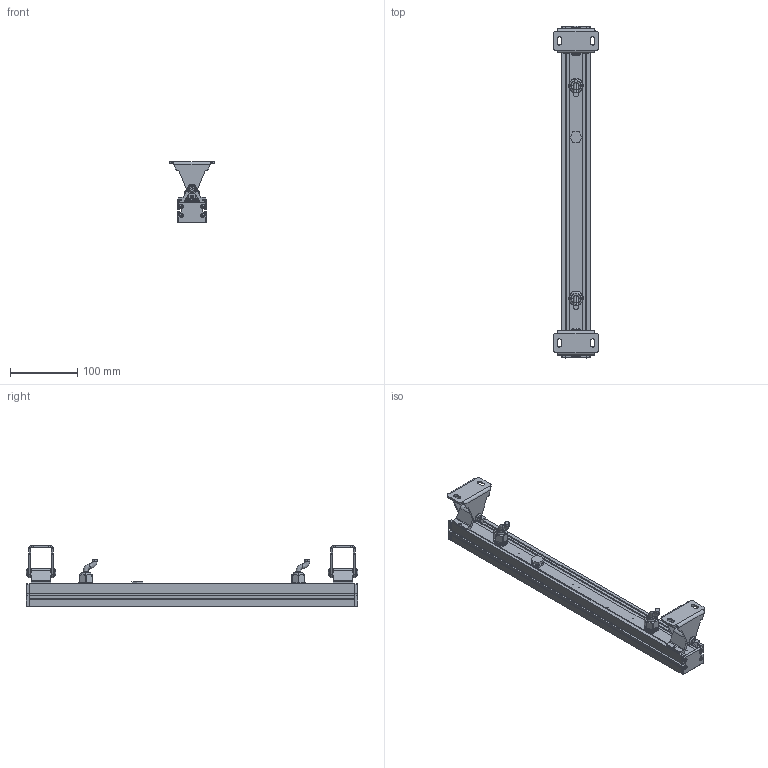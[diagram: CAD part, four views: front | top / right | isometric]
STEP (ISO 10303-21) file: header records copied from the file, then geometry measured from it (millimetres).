
FILE_DESCRIPTION((''),'2;1');
FILE_NAME('B6KD1257_ASM','2023-02-04T',('Administrator'),(''),'CREO PARAMETRIC BY PTC INC, 2015200','CREO PARAMETRIC BY PTC INC, 2015200','');
FILE_SCHEMA(('CONFIG_CONTROL_DESIGN'));
Length unit declared in the file: millimetre
Products named in the file (23): 6KE; BLI-12_20_1_1; PG9_U___M; ___J3; ___J1; ___J2; PG9___1_ASM; PG_______Y___ASM; 6K-_3D_2017_1_6_; 6K_56_1; 6K_LJB_24PCS_5; 6R_TJZJ_5; 6K_LJB_ZJ_ASM_6_ASM; M3-22; PRODUCT_88784_ANY_1_1; M3X6-YT_2; 002_53; XIAZHIJIA-6K-GAOY004_13; M9; M3; SOCKET_HEAD_CAP_SCREW_ISO_ISO_4; XINZHIJIA-6K-GAOYA004_ASM_12_ASM; B6KD1257_ASM
Assembly tree (42 placements, depth 4):
  B6KD1257_ASM
    6KE
    BLI-12_20_1_1
    PG_______Y___ASM  x2
      PG9_U___M
      PG9___1_ASM
        ___J3
        ___J1
        ___J2
    6K-_3D_2017_1_6_  x2
    6K_56_1  x2
    6K_LJB_ZJ_ASM_6_ASM  x2
      6K_LJB_24PCS_5
      6R_TJZJ_5
    M3-22  x6
    PRODUCT_88784_ANY_1_1
    M3X6-YT_2  x8
    XINZHIJIA-6K-GAOYA004_ASM_12_ASM  x2
      002_53
      XIAZHIJIA-6K-GAOY004_13
      M9
      M3
      SOCKET_HEAD_CAP_SCREW_ISO_ISO_4
Bounding box: 67 x 494.64 x 90.78 mm (x, y, z)
Volume: 463694.1 mm3; surface area: 276923.7 mm2
Topology: 49 solids, 49 shells, 2942 faces, 7260 edges, 4586 vertices
Faces by surface type: plane 1390, cylinder 742, cone 446, extrusion 264, bspline 28, torus 24, sphere 24, revolution 24
Entity records: 48516 total; most frequent: CARTESIAN_POINT 18848, ORIENTED_EDGE 6114, DIRECTION 5736, EDGE_CURVE 3057, VECTOR 2152, LINE 2020, VERTEX_POINT 1990, AXIS2_PLACEMENT_3D 1786
